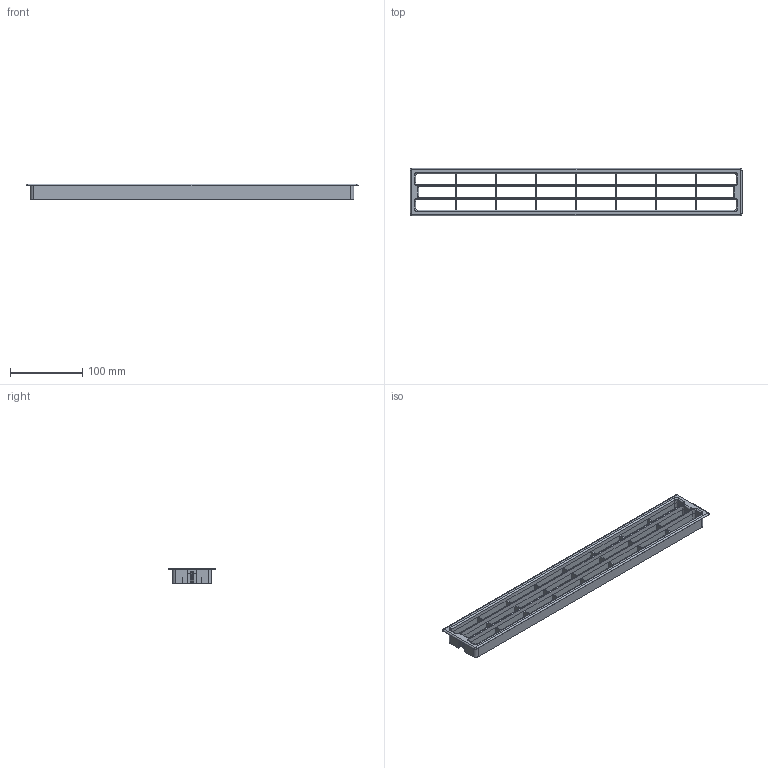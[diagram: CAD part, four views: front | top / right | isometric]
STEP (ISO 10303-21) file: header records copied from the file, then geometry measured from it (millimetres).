
FILE_DESCRIPTION((''),'2;1');
FILE_NAME('57_0240','2019-04-12T11:25:01',('dsc'),(''),'CREO PARAMETRIC BY PTC INC, 2018420','CREO PARAMETRIC BY PTC INC, 2018420','');
FILE_SCHEMA(('AP242_MANAGED_MODEL_BASED_3D_ENGINEERING_MIM_LF { 1 0 10303 442 1 1 4 }'));
Length unit declared in the file: millimetre
Products named in the file (1): 57_0240
Bounding box: 458 x 65 x 22 mm (x, y, z)
Volume: 93339.9 mm3; surface area: 107777.9 mm2
Topology: 1 solids, 1 shells, 300 faces, 752 edges, 436 vertices
Faces by surface type: plane 236, cone 28, cylinder 20, bspline 12, torus 4
Entity records: 9773 total; most frequent: CARTESIAN_POINT 2216, ORIENTED_EDGE 1504, DIRECTION 1396, EDGE_CURVE 752, VECTOR 652, LINE 652, VERTEX_POINT 436, AXIS2_PLACEMENT_3D 372
